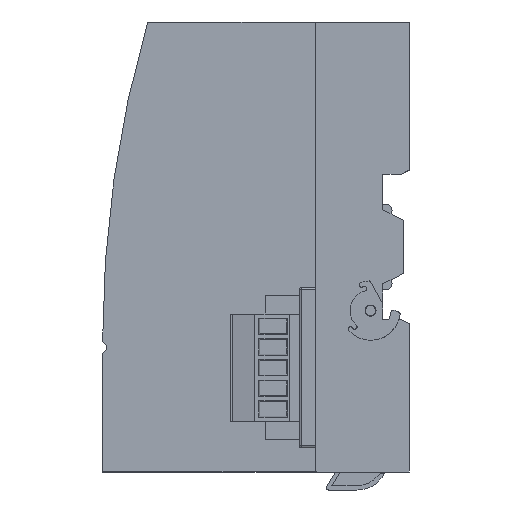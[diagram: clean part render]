
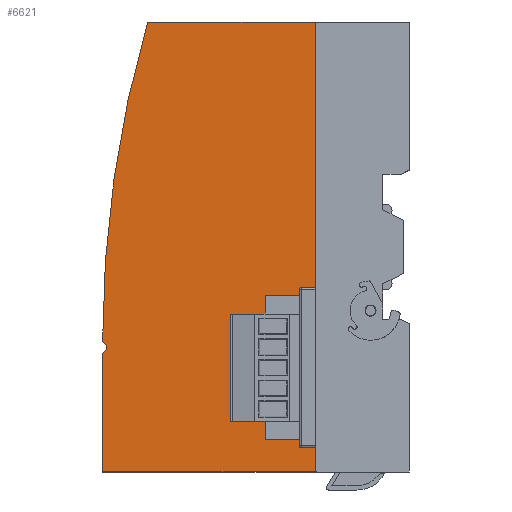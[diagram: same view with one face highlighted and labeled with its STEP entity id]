
A CAD part, left-side view. The second image highlights one B-rep face of the part: STEP entity #6621.
In plain terms, the highlighted planar face has unit normal (-1, 0, 0).
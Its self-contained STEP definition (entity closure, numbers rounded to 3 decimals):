
#865 = CARTESIAN_POINT ( 'NONE',  ( 57.765, 23., -137.497 ) ) ;
#1435 = VECTOR ( 'NONE', #18705, 1000. ) ;
#1613 = DIRECTION ( 'NONE',  ( 0., 0., 1. ) ) ;
#2555 = CARTESIAN_POINT ( 'NONE',  ( 57.765, 75., -137.497 ) ) ;
#2673 = VECTOR ( 'NONE', #22672, 1000. ) ;
#3105 = LINE ( 'NONE', #25337, #12814 ) ;
#3171 = CARTESIAN_POINT ( 'NONE',  ( 57.765, 23., -137.497 ) ) ;
#3365 = ORIENTED_EDGE ( 'NONE', *, *, #10157, .F. ) ;
#3446 = EDGE_CURVE ( 'NONE', #14519, #24343, #3105, .T. ) ;
#3609 = CARTESIAN_POINT ( 'NONE',  ( 57.765, 90.249, -90.249 ) ) ;
#3711 = VECTOR ( 'NONE', #9132, 1000. ) ;
#3803 = DIRECTION ( 'NONE',  ( 1., 0., 0. ) ) ;
#5076 = DIRECTION ( 'NONE',  ( 0., 0., 1. ) ) ;
#5196 = CARTESIAN_POINT ( 'NONE',  ( 57.765, 74., 0. ) ) ;
#6621 = ADVANCED_FACE ( 'NONE', ( #23333 ), #11685, .F. ) ;
#7006 = CARTESIAN_POINT ( 'NONE',  ( 57.765, 75., -108.497 ) ) ;
#7191 = LINE ( 'NONE', #5196, #12717 ) ;
#7871 = LINE ( 'NONE', #3171, #1435 ) ;
#8184 = ORIENTED_EDGE ( 'NONE', *, *, #27971, .F. ) ;
#9132 = DIRECTION ( 'NONE',  ( 0., -0.707, 0.707 ) ) ;
#9539 = ORIENTED_EDGE ( 'NONE', *, *, #3446, .T. ) ;
#9541 = DIRECTION ( 'NONE',  ( 0., 0., -1. ) ) ;
#9767 = CARTESIAN_POINT ( 'NONE',  ( 57.765, 64., -27.497 ) ) ;
#10157 = EDGE_CURVE ( 'NONE', #15440, #15749, #20591, .T. ) ;
#10185 = CARTESIAN_POINT ( 'NONE',  ( 57.765, 75., -105.497 ) ) ;
#10837 = LINE ( 'NONE', #865, #2673 ) ;
#10986 = LINE ( 'NONE', #24396, #3711 ) ;
#11239 = CARTESIAN_POINT ( 'NONE',  ( 57.765, 23., -27.497 ) ) ;
#11497 = DIRECTION ( 'NONE',  ( 1., 0., 0. ) ) ;
#11585 = EDGE_CURVE ( 'NONE', #22430, #23894, #23987, .T. ) ;
#11685 = PLANE ( 'NONE',  #24424 ) ;
#11828 = ORIENTED_EDGE ( 'NONE', *, *, #11585, .T. ) ;
#11884 = CIRCLE ( 'NONE', #14164, 282.045 ) ;
#12078 = DIRECTION ( 'NONE',  ( 0., 1., 0. ) ) ;
#12717 = VECTOR ( 'NONE', #1613, 1000. ) ;
#12814 = VECTOR ( 'NONE', #12078, 1000. ) ;
#13019 = EDGE_CURVE ( 'NONE', #14519, #17308, #10837, .T. ) ;
#13288 = CARTESIAN_POINT ( 'NONE',  ( 57.765, 23., -137.497 ) ) ;
#13428 = VERTEX_POINT ( 'NONE', #15936 ) ;
#13853 = EDGE_CURVE ( 'NONE', #17308, #23894, #7871, .T. ) ;
#14120 = EDGE_CURVE ( 'NONE', #22430, #13428, #10986, .T. ) ;
#14164 = AXIS2_PLACEMENT_3D ( 'NONE', #24611, #11497, #5076 ) ;
#14519 = VERTEX_POINT ( 'NONE', #11239 ) ;
#15440 = VERTEX_POINT ( 'NONE', #23196 ) ;
#15749 = VERTEX_POINT ( 'NONE', #10185 ) ;
#15936 = CARTESIAN_POINT ( 'NONE',  ( 57.765, 74., -107.497 ) ) ;
#15969 = CARTESIAN_POINT ( 'NONE',  ( 57.765, 23., -137.497 ) ) ;
#16852 = VECTOR ( 'NONE', #26699, 1000. ) ;
#17308 = VERTEX_POINT ( 'NONE', #13288 ) ;
#18705 = DIRECTION ( 'NONE',  ( 0., 1., 0. ) ) ;
#20591 = LINE ( 'NONE', #3609, #22285 ) ;
#21020 = ORIENTED_EDGE ( 'NONE', *, *, #14120, .F. ) ;
#22285 = VECTOR ( 'NONE', #25287, 1000. ) ;
#22430 = VERTEX_POINT ( 'NONE', #7006 ) ;
#22544 = ORIENTED_EDGE ( 'NONE', *, *, #13853, .F. ) ;
#22672 = DIRECTION ( 'NONE',  ( 0., 0., -1. ) ) ;
#23196 = CARTESIAN_POINT ( 'NONE',  ( 57.765, 74., -106.497 ) ) ;
#23333 = FACE_OUTER_BOUND ( 'NONE', #25815, .T. ) ;
#23402 = ORIENTED_EDGE ( 'NONE', *, *, #24301, .F. ) ;
#23894 = VERTEX_POINT ( 'NONE', #2555 ) ;
#23987 = LINE ( 'NONE', #26271, #16852 ) ;
#24301 = EDGE_CURVE ( 'NONE', #15749, #24343, #11884, .T. ) ;
#24343 = VERTEX_POINT ( 'NONE', #9767 ) ;
#24396 = CARTESIAN_POINT ( 'NONE',  ( 57.765, -16.749, -16.749 ) ) ;
#24424 = AXIS2_PLACEMENT_3D ( 'NONE', #15969, #3803, #9541 ) ;
#24611 = CARTESIAN_POINT ( 'NONE',  ( 57.765, -207.045, -105.497 ) ) ;
#25287 = DIRECTION ( 'NONE',  ( 0., 0.707, 0.707 ) ) ;
#25337 = CARTESIAN_POINT ( 'NONE',  ( 57.765, 23., -27.497 ) ) ;
#25815 = EDGE_LOOP ( 'NONE', ( #8184, #21020, #11828, #22544, #25906, #9539, #23402, #3365 ) ) ;
#25906 = ORIENTED_EDGE ( 'NONE', *, *, #13019, .F. ) ;
#26271 = CARTESIAN_POINT ( 'NONE',  ( 57.765, 75., -137.497 ) ) ;
#26699 = DIRECTION ( 'NONE',  ( 0., 0., -1. ) ) ;
#27971 = EDGE_CURVE ( 'NONE', #13428, #15440, #7191, .T. ) ;
